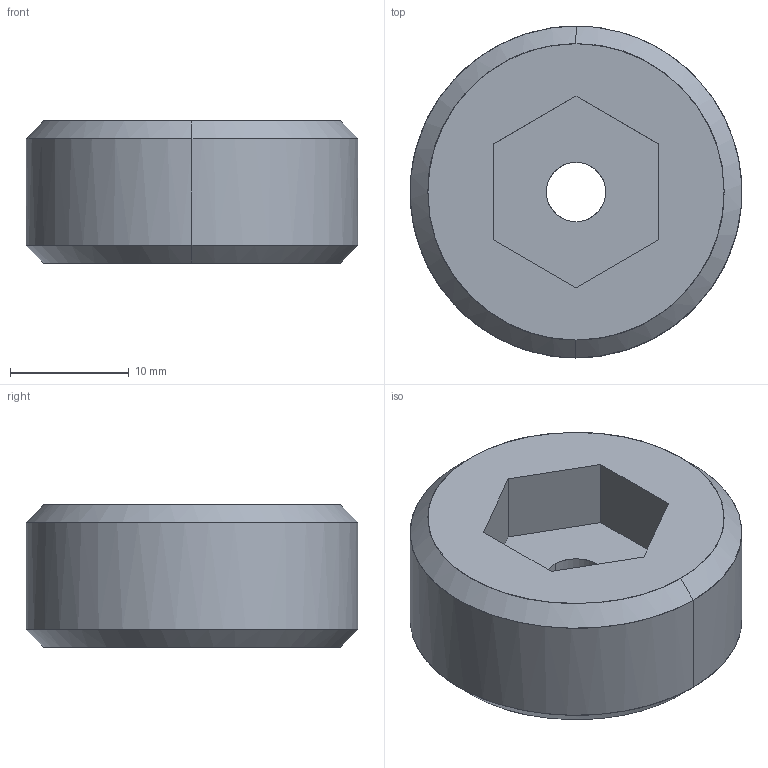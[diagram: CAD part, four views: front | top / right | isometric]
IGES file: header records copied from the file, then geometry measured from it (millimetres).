
Global section: file name: E:\UnigraphicsGraphicData\MISUMI_PRESS-PARTS\IGES\3d_mswh28_00466_r00.igs; native system: NX V5.0; preprocessor: UGS NX IGES V5.0; author: MISUMI; date: 20110105.161524; units: millimetre
Bounding box: 27.97 x 28 x 12 mm (x, y, z)
Surface area: 2475.7 mm2 (no closed solid volume)
Topology: 0 solids, 0 shells, 17 faces, 100 edges, 100 vertices
Faces by surface type: bspline 17
